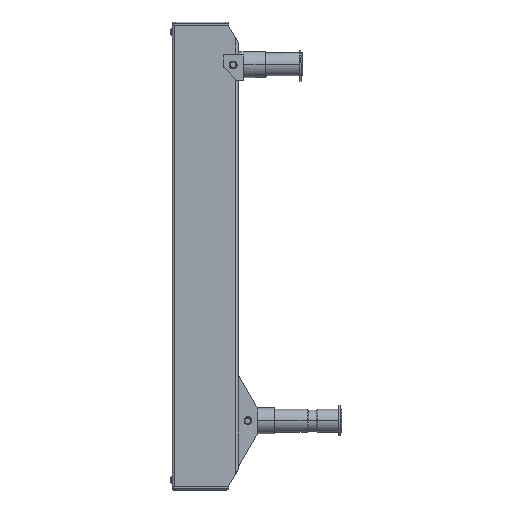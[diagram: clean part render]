
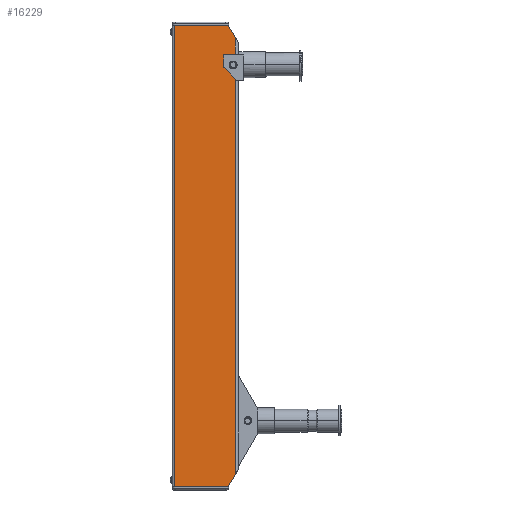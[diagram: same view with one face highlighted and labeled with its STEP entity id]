
A CAD part, left-side view. The second image highlights one B-rep face of the part: STEP entity #16229.
In plain terms, the highlighted planar face has unit normal (-1, 0, 0).
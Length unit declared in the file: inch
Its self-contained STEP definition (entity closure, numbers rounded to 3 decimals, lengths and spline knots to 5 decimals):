
#127 = ORIENTED_EDGE ( 'NONE', *, *, #17592, .F. ) ;
#633 = VERTEX_POINT ( 'NONE', #3979 ) ;
#655 = EDGE_CURVE ( 'NONE', #28287, #633, #57785, .T. ) ;
#1277 = VERTEX_POINT ( 'NONE', #11687 ) ;
#1522 = PLANE ( 'NONE',  #57166 ) ;
#3122 = VERTEX_POINT ( 'NONE', #28816 ) ;
#3979 = CARTESIAN_POINT ( 'NONE',  ( 0., 0.185, 7.1095 ) ) ;
#4429 = CARTESIAN_POINT ( 'NONE',  ( 0., 0.1, 7.375 ) ) ;
#5042 = CARTESIAN_POINT ( 'NONE',  ( 0., 0.1, 8.27369 ) ) ;
#5293 = VERTEX_POINT ( 'NONE', #29931 ) ;
#5651 = VECTOR ( 'NONE', #59513, 39.37008 ) ;
#6207 = LINE ( 'NONE', #25165, #18937 ) ;
#6354 = DIRECTION ( 'NONE',  ( 0., 0., -1. ) ) ;
#7060 = LINE ( 'NONE', #20444, #25307 ) ;
#7156 = DIRECTION ( 'NONE',  ( 0., 1., 0. ) ) ;
#7757 = VECTOR ( 'NONE', #44338, 39.37008 ) ;
#7997 = ORIENTED_EDGE ( 'NONE', *, *, #38254, .F. ) ;
#8082 = LINE ( 'NONE', #32012, #35456 ) ;
#8089 = CARTESIAN_POINT ( 'NONE',  ( 0., 2.4, -8.75 ) ) ;
#8499 = CARTESIAN_POINT ( 'NONE',  ( 0., 2.4, 8.75 ) ) ;
#10236 = AXIS2_PLACEMENT_3D ( 'NONE', #20331, #15970, #6354 ) ;
#11687 = CARTESIAN_POINT ( 'NONE',  ( 0., 0.1, 7.125 ) ) ;
#12992 = DIRECTION ( 'NONE',  ( 1., 0., 0. ) ) ;
#13602 = CARTESIAN_POINT ( 'NONE',  ( 0., 0.185, 7.25 ) ) ;
#15282 = DIRECTION ( 'NONE',  ( 0., 0., 1. ) ) ;
#15820 = ORIENTED_EDGE ( 'NONE', *, *, #39341, .T. ) ;
#15970 = DIRECTION ( 'NONE',  ( 1., 0., 0. ) ) ;
#16025 = CARTESIAN_POINT ( 'NONE',  ( 0., 0.1, -8.75 ) ) ;
#16132 = DIRECTION ( 'NONE',  ( 0., 0., 1. ) ) ;
#16229 = ADVANCED_FACE ( 'NONE', ( #53723 ), #1522, .T. ) ;
#16738 = VERTEX_POINT ( 'NONE', #30751 ) ;
#17592 = EDGE_CURVE ( 'NONE', #3122, #49052, #7060, .T. ) ;
#17982 = EDGE_LOOP ( 'NONE', ( #15820, #23133, #50691, #32811, #60112, #54667, #127, #21453, #30680, #45351, #7997, #40265 ) ) ;
#18926 = DIRECTION ( 'NONE',  ( 0., -1., 0. ) ) ;
#18937 = VECTOR ( 'NONE', #16132, 39.37008 ) ;
#19101 = VERTEX_POINT ( 'NONE', #49744 ) ;
#19173 = CARTESIAN_POINT ( 'NONE',  ( 0., 0.185, 7.25 ) ) ;
#19809 = CARTESIAN_POINT ( 'NONE',  ( 0., 0.375, -8.75 ) ) ;
#20331 = CARTESIAN_POINT ( 'NONE',  ( 0., 0.185, 7.25 ) ) ;
#20444 = CARTESIAN_POINT ( 'NONE',  ( 0., 0.375, 8.75 ) ) ;
#20644 = VECTOR ( 'NONE', #60162, 39.37008 ) ;
#20741 = DIRECTION ( 'NONE',  ( 0., -0.5, -0.866 ) ) ;
#20970 = LINE ( 'NONE', #21588, #5651 ) ;
#21453 = ORIENTED_EDGE ( 'NONE', *, *, #33692, .F. ) ;
#21588 = CARTESIAN_POINT ( 'NONE',  ( 0., 0.375, -8.75 ) ) ;
#22414 = EDGE_CURVE ( 'NONE', #19101, #5293, #35033, .T. ) ;
#23133 = ORIENTED_EDGE ( 'NONE', *, *, #655, .T. ) ;
#23764 = DIRECTION ( 'NONE',  ( 0., -1., 0. ) ) ;
#24033 = VERTEX_POINT ( 'NONE', #19809 ) ;
#24812 = DIRECTION ( 'NONE',  ( 0., -1., 0. ) ) ;
#25165 = CARTESIAN_POINT ( 'NONE',  ( 0., 0.1, -8.75 ) ) ;
#25307 = VECTOR ( 'NONE', #20741, 39.37008 ) ;
#25834 = CARTESIAN_POINT ( 'NONE',  ( 0., 2.4, -8.75 ) ) ;
#26032 = CARTESIAN_POINT ( 'NONE',  ( 0., 2.4, -8.75 ) ) ;
#26873 = CIRCLE ( 'NONE', #34809, 0.1405 ) ;
#26982 = EDGE_CURVE ( 'NONE', #633, #19101, #26873, .T. ) ;
#28287 = VERTEX_POINT ( 'NONE', #59788 ) ;
#28728 = CARTESIAN_POINT ( 'NONE',  ( 0., 2.4, 8.75 ) ) ;
#28816 = CARTESIAN_POINT ( 'NONE',  ( 0., 0.375, 8.75 ) ) ;
#28935 = VECTOR ( 'NONE', #23764, 39.37008 ) ;
#28959 = AXIS2_PLACEMENT_3D ( 'NONE', #13602, #12992, #32564 ) ;
#29931 = CARTESIAN_POINT ( 'NONE',  ( 0., 0.12085, 7.375 ) ) ;
#30192 = LINE ( 'NONE', #25834, #53713 ) ;
#30680 = ORIENTED_EDGE ( 'NONE', *, *, #32488, .F. ) ;
#30751 = CARTESIAN_POINT ( 'NONE',  ( 0., 2.4, -8.75 ) ) ;
#31993 = VERTEX_POINT ( 'NONE', #4429 ) ;
#32012 = CARTESIAN_POINT ( 'NONE',  ( 0., 0.12085, 7.125 ) ) ;
#32488 = EDGE_CURVE ( 'NONE', #16738, #60868, #30192, .T. ) ;
#32564 = DIRECTION ( 'NONE',  ( 0., 0., -1. ) ) ;
#32811 = ORIENTED_EDGE ( 'NONE', *, *, #22414, .T. ) ;
#33692 = EDGE_CURVE ( 'NONE', #60868, #3122, #38378, .T. ) ;
#34809 = AXIS2_PLACEMENT_3D ( 'NONE', #19173, #58032, #57717 ) ;
#35033 = CIRCLE ( 'NONE', #10236, 0.1405 ) ;
#35456 = VECTOR ( 'NONE', #7156, 39.37008 ) ;
#37062 = CARTESIAN_POINT ( 'NONE',  ( 0., 0.1, -8.27369 ) ) ;
#38254 = EDGE_CURVE ( 'NONE', #40080, #24033, #20970, .T. ) ;
#38378 = LINE ( 'NONE', #28728, #28935 ) ;
#39341 = EDGE_CURVE ( 'NONE', #1277, #28287, #8082, .T. ) ;
#39423 = DIRECTION ( 'NONE',  ( -1., 0., 0. ) ) ;
#40080 = VERTEX_POINT ( 'NONE', #37062 ) ;
#40265 = ORIENTED_EDGE ( 'NONE', *, *, #56808, .T. ) ;
#42379 = VECTOR ( 'NONE', #18926, 39.37008 ) ;
#43061 = EDGE_CURVE ( 'NONE', #16738, #24033, #49752, .T. ) ;
#44338 = DIRECTION ( 'NONE',  ( 0., 0., 1. ) ) ;
#45351 = ORIENTED_EDGE ( 'NONE', *, *, #43061, .T. ) ;
#46696 = EDGE_CURVE ( 'NONE', #31993, #49052, #6207, .T. ) ;
#49052 = VERTEX_POINT ( 'NONE', #5042 ) ;
#49744 = CARTESIAN_POINT ( 'NONE',  ( 0., 0.185, 7.3905 ) ) ;
#49752 = LINE ( 'NONE', #8089, #42379 ) ;
#50532 = LINE ( 'NONE', #56389, #20644 ) ;
#50691 = ORIENTED_EDGE ( 'NONE', *, *, #26982, .T. ) ;
#53713 = VECTOR ( 'NONE', #15282, 39.37008 ) ;
#53723 = FACE_OUTER_BOUND ( 'NONE', #17982, .T. ) ;
#54667 = ORIENTED_EDGE ( 'NONE', *, *, #46696, .T. ) ;
#56389 = CARTESIAN_POINT ( 'NONE',  ( 0., -0.06488, 7.375 ) ) ;
#56808 = EDGE_CURVE ( 'NONE', #40080, #1277, #57081, .T. ) ;
#57081 = LINE ( 'NONE', #16025, #7757 ) ;
#57162 = EDGE_CURVE ( 'NONE', #5293, #31993, #50532, .T. ) ;
#57166 = AXIS2_PLACEMENT_3D ( 'NONE', #26032, #39423, #24812 ) ;
#57717 = DIRECTION ( 'NONE',  ( 0., 0., -1. ) ) ;
#57785 = CIRCLE ( 'NONE', #28959, 0.1405 ) ;
#58032 = DIRECTION ( 'NONE',  ( 1., 0., 0. ) ) ;
#59513 = DIRECTION ( 'NONE',  ( 0., 0.5, -0.866 ) ) ;
#59788 = CARTESIAN_POINT ( 'NONE',  ( 0., 0.12085, 7.125 ) ) ;
#60112 = ORIENTED_EDGE ( 'NONE', *, *, #57162, .T. ) ;
#60162 = DIRECTION ( 'NONE',  ( 0., -1., 0. ) ) ;
#60868 = VERTEX_POINT ( 'NONE', #8499 ) ;
